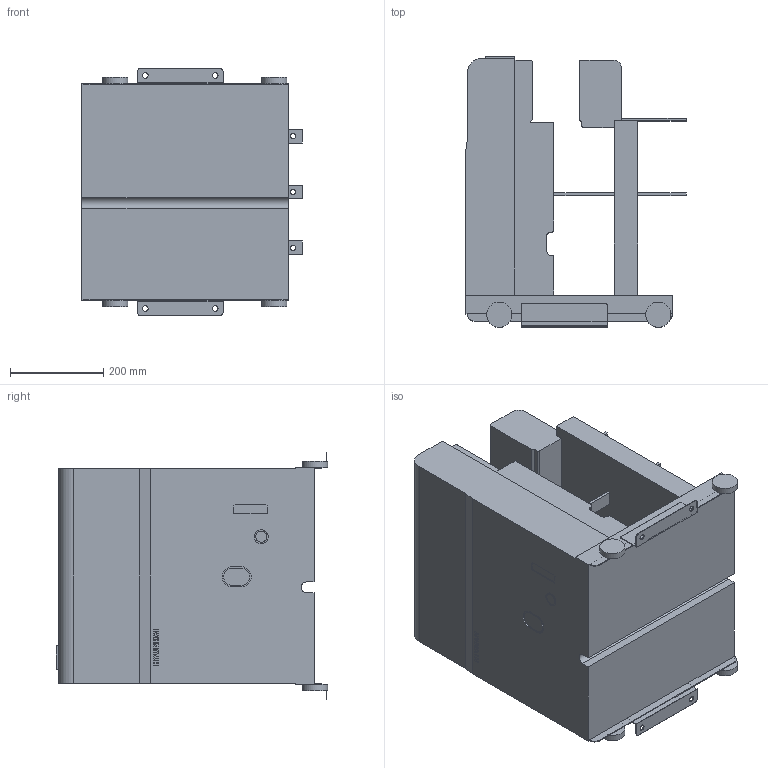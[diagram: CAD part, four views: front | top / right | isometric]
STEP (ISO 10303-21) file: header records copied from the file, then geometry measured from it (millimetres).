
FILE_DESCRIPTION(('STEP AP203'), '1');
FILE_NAME('Ñòàöèîíàðíîå èñïîëíåíèå 3,6_7,2êÂ (À1)', '', ('UNSPECIFIED'), ('UNSPECIFIED'), 'ASCON STEP Converter 1.3', 'ASCON Math Kernel', '');
FILE_SCHEMA(('CONFIG_CONTROL_DESIGN'));
Length unit declared in the file: millimetre
Bounding box: 472.6 x 581.83 x 530 mm (x, y, z)
Volume: 60832876.6 mm3; surface area: 1866391.6 mm2
Topology: 1 solids, 1 shells, 287 faces, 775 edges, 508 vertices
Faces by surface type: plane 200, cylinder 61, extrusion 26
Full cylindrical faces by diameter (mm): 4 x6, 6 x12, 11 x6, 12 x4, 24 x1, 30 x1, 54 x4
Entity records: 11267 total; most frequent: CARTESIAN_POINT 1697, ORIENTED_EDGE 1482, DIRECTION 1371, EDGE_CURVE 741, VECTOR 583, LINE 557, VERTEX_POINT 512, EDGE_LOOP 401
